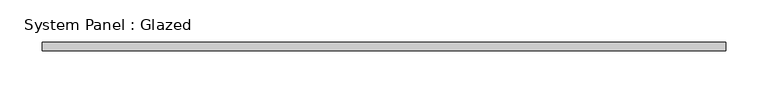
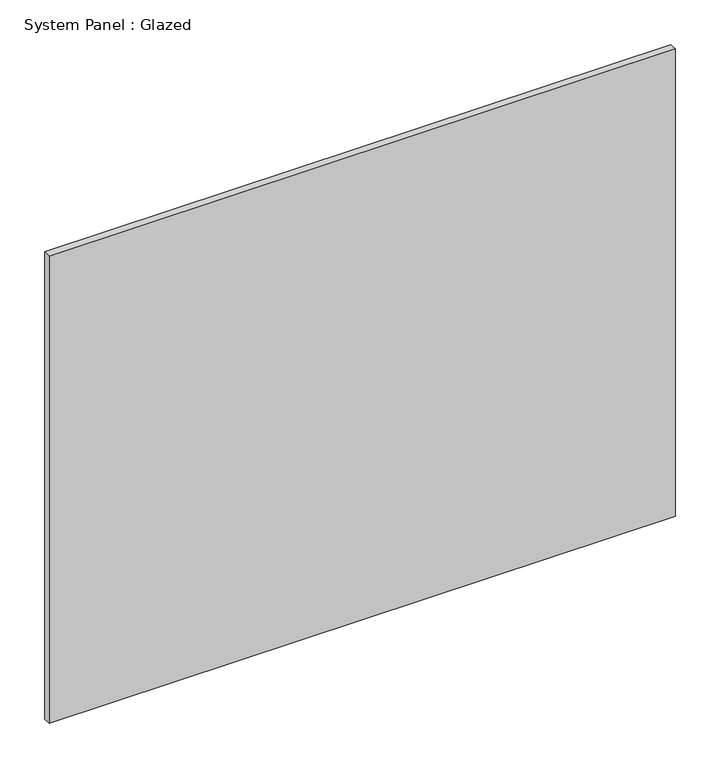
"""IFC4 building model written with IfcOpenShell, lengths in millimetres: plate geometry, System Panel : Glazed."""

from ifc_helpers import new_model, si_unit, origin, origin_with_axes, place, context, project, spatial, polyline, outline, extrude, source, transform, mapped, element, save


def system_panel_glazed_bfee9a3a(model_context):
    return source(origin(), model_context, "Body", "SweptSolid", [
        extrude(outline(polyline([(405.8352626, -5.0), (-405.8352626, -5.0), (-405.8352626, 5.0), (405.8352626, 5.0), (405.8352626, -5.0)])), origin_with_axes(), (0.0, 0.0, 1.0), 640.0),
    ])


if __name__ == "__main__":
    model = new_model("IFC4")
    model_context = context("Model", 3, world=origin())
    ifc_project = project(units=[si_unit("LENGTHUNIT", "METRE", prefix="MILLI")], contexts=[model_context])
    site = spatial("IfcSite", under=ifc_project)
    building = spatial("IfcBuilding", under=site)
    placement = place(None, origin())
    system_panel_glazed_shape = system_panel_glazed_bfee9a3a(model_context)
    element("IfcPlate", 1, ObjectType="System Panel : Glazed", at=placement, inside=building, context=model_context, shape_type="MappedRepresentation", body=[
        mapped(system_panel_glazed_shape, transform((0.0, 0.0, 0.0), x_axis=(1.0, 0.0, 0.0), y_axis=(0.0, 1.0, 0.0), z_axis=(0.0, 0.0, 1.0))),
    ])
    save(model, "model.ifc")
